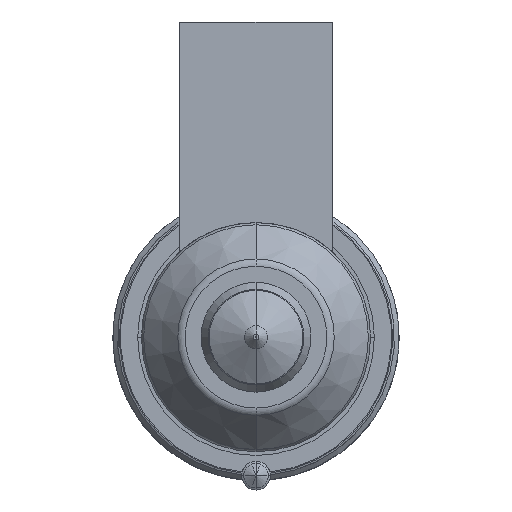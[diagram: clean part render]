
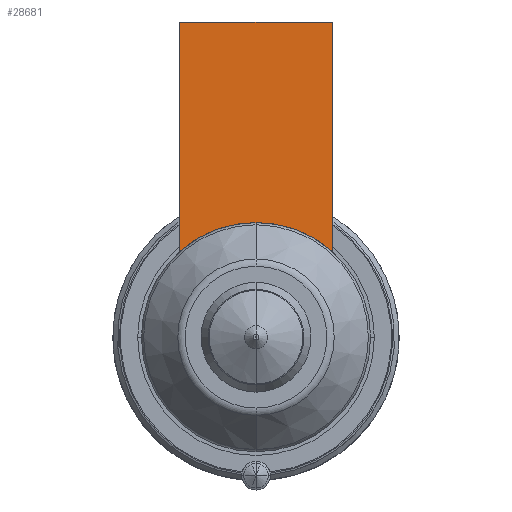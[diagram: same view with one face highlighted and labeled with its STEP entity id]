
A CAD part, front view. The second image highlights one B-rep face of the part: STEP entity #28681.
In plain terms, the highlighted planar face has unit normal (0, -1, 0).
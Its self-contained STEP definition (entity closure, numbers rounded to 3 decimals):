
#27864=DIRECTION('',(0.,0.,-1.));
#27865=VECTOR('',#27864,24.056);
#27866=CARTESIAN_POINT('',(-8.,-56.,33.));
#27867=LINE('',#27866,#27865);
#27879=CARTESIAN_POINT('',(0.,-56.,0.));
#27880=DIRECTION('',(0.,-1.,0.));
#27881=DIRECTION('',(0.,0.,1.));
#27882=AXIS2_PLACEMENT_3D('',#27879,#27880,#27881);
#27887=DIRECTION('',(1.,0.,0.));
#27888=VECTOR('',#27887,16.);
#27889=CARTESIAN_POINT('',(-8.,-56.,33.));
#27890=LINE('',#27889,#27888);
#27894=CARTESIAN_POINT('',(0.,-56.,0.));
#27895=DIRECTION('',(0.,-1.,0.));
#27896=DIRECTION('',(0.667,0.,0.745));
#27897=AXIS2_PLACEMENT_3D('',#27894,#27895,#27896);
#28045=DIRECTION('',(0.,0.,-1.));
#28046=VECTOR('',#28045,24.056);
#28047=CARTESIAN_POINT('',(8.,-56.,33.));
#28048=LINE('',#28047,#28046);
#28596=CARTESIAN_POINT('',(-8.,-56.,33.));
#28597=VERTEX_POINT('',#28596);
#28602=CARTESIAN_POINT('',(8.,-56.,33.));
#28603=VERTEX_POINT('',#28602);
#28605=CARTESIAN_POINT('',(-8.,-56.,8.944));
#28607=VERTEX_POINT('',#28605);
#28609=CARTESIAN_POINT('',(8.,-56.,8.944));
#28611=VERTEX_POINT('',#28609);
#28614=CARTESIAN_POINT('',(0.,-56.,12.));
#28615=VERTEX_POINT('',#28614);
#28666=CARTESIAN_POINT('',(-8.,-56.,33.));
#28667=DIRECTION('',(0.,-1.,0.));
#28668=DIRECTION('',(0.,0.,-1.));
#28669=AXIS2_PLACEMENT_3D('',#28666,#28667,#28668);
#28670=PLANE('',#28669);
#28671=ORIENTED_EDGE('',*,*,#28645,.T.);
#28672=ORIENTED_EDGE('',*,*,#28634,.F.);
#28674=ORIENTED_EDGE('',*,*,#28673,.T.);
#28676=ORIENTED_EDGE('',*,*,#28675,.T.);
#28678=ORIENTED_EDGE('',*,*,#28677,.T.);
#28679=EDGE_LOOP('',(#28671,#28672,#28674,#28676,#28678));
#28680=FACE_OUTER_BOUND('',#28679,.F.);
#28681=ADVANCED_FACE('',(#28680),#28670,.T.);
#27883=CIRCLE('',#27882,12.);
#27898=CIRCLE('',#27897,12.);
#28634=EDGE_CURVE('',#28597,#28607,#27867,.T.);
#28645=EDGE_CURVE('',#28615,#28607,#27883,.T.);
#28673=EDGE_CURVE('',#28597,#28603,#27890,.T.);
#28675=EDGE_CURVE('',#28603,#28611,#28048,.T.);
#28677=EDGE_CURVE('',#28611,#28615,#27898,.T.);
